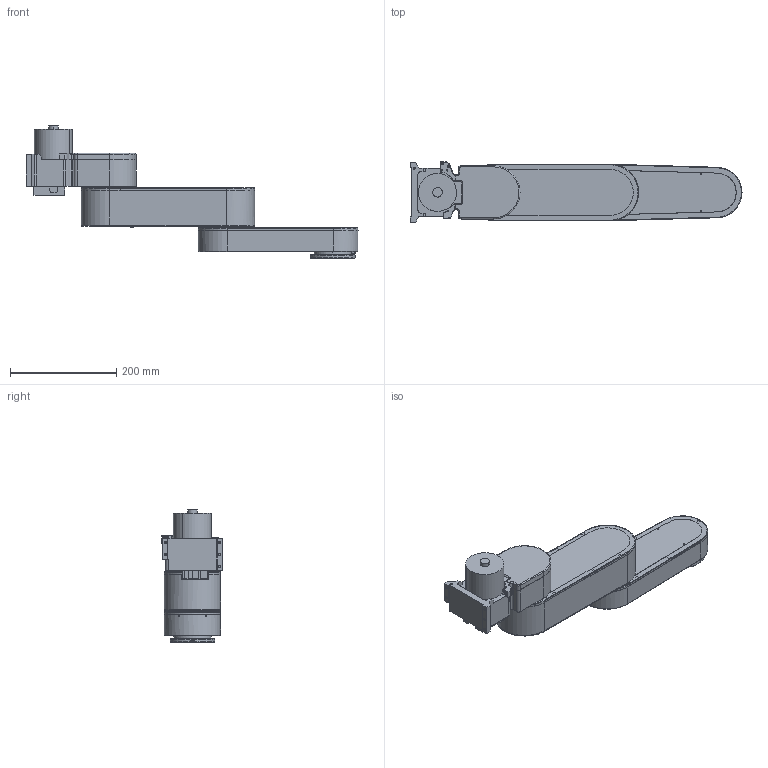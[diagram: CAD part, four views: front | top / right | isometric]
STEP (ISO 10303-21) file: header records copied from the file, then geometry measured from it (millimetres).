
FILE_DESCRIPTION(('CATIA V5 STEP Exchange'),'2;1');
FILE_NAME('E:\YFX工作文件\1 机械臂\机械臂简图\2442系列\42无上下组件\Z-Arm 0042.stp','2021-11-10T08:45:40+00:00',('none'),('none'),'CATIA Version 5 Release 20 GA (IN-10)','CATIA V5 STEP AP203','none');
FILE_SCHEMA(('CONFIG_CONTROL_DESIGN'));
Length unit declared in the file: millimetre
Products named in the file (4): 产品1; 101-012-10-03; 101-012-10-02; B.00.0C00001-02-03
Assembly tree (19 placements, depth 3):
  产品1
    101-012-10-03
      #66
      #2312
      #3669
      #4710
    101-012-10-02
      #5491
      #8123
      #9715
      #11130
      #13029
    #13548
    B.00.0C00001-02-03
      #18047
      #20629
      #23100
      #24857
      #26523
      #28047
Bounding box: 624.5 x 113.5 x 248.5 mm (x, y, z)
Volume: 4917619.9 mm3; surface area: 543766.5 mm2
Topology: 16 solids, 16 shells, 881 faces, 2336 edges, 1486 vertices
Faces by surface type: cylinder 388, plane 290, cone 149, torus 39, extrusion 13, bspline 2
Entity records: 28636 total; most frequent: CARTESIAN_POINT 7417, ORIENTED_EDGE 4572, DIRECTION 3639, EDGE_CURVE 2286, AXIS2_PLACEMENT_3D 1663, VERTEX_POINT 1486, VECTOR 1182, LINE 1169
